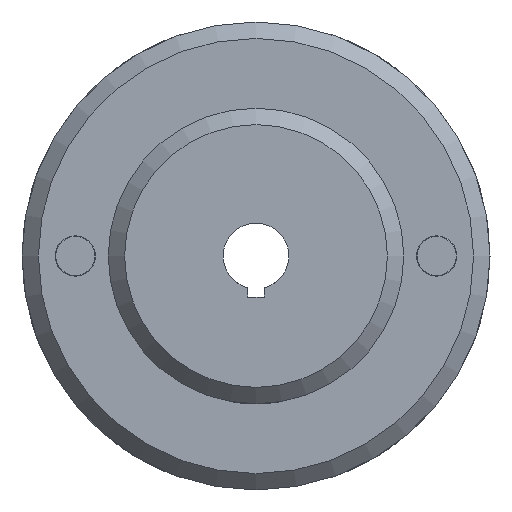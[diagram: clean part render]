
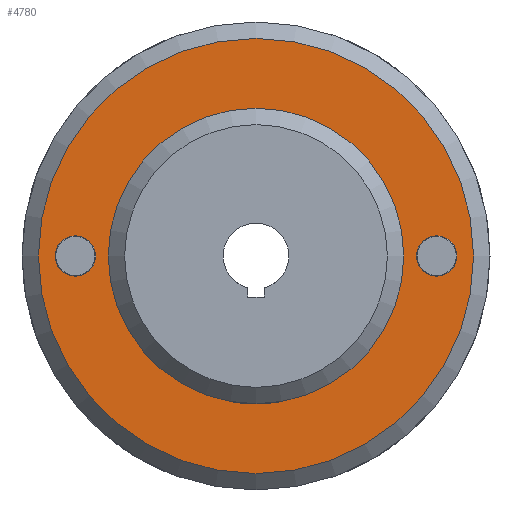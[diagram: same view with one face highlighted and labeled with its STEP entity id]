
A CAD part, left-side view. The second image highlights one B-rep face of the part: STEP entity #4780.
In plain terms, the highlighted planar face has unit normal (-1, 0, 0) as drawn and (0, 1, 0) by its records, which use the part's own axes.
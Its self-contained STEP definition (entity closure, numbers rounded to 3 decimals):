
#953=FACE_BOUND('',#1596,.T.);
#954=FACE_BOUND('',#1597,.T.);
#955=FACE_BOUND('',#1598,.T.);
#1258=FACE_OUTER_BOUND('',#1595,.T.);
#1595=EDGE_LOOP('',(#4370));
#1596=EDGE_LOOP('',(#4371));
#1597=EDGE_LOOP('',(#4372));
#1598=EDGE_LOOP('',(#4373));
#1936=CIRCLE('',#5603,18.);
#1937=CIRCLE('',#5606,26.5);
#1940=CIRCLE('',#5611,2.459);
#1941=CIRCLE('',#5612,2.459);
#2334=VERTEX_POINT('',#10053);
#2338=VERTEX_POINT('',#10100);
#2341=VERTEX_POINT('',#10110);
#2342=VERTEX_POINT('',#10112);
#3015=EDGE_CURVE('',#2334,#2334,#1936,.T.);
#3019=EDGE_CURVE('',#2338,#2338,#1937,.T.);
#3024=EDGE_CURVE('',#2341,#2341,#1940,.T.);
#3025=EDGE_CURVE('',#2342,#2342,#1941,.T.);
#4370=ORIENTED_EDGE('',*,*,#3019,.F.);
#4371=ORIENTED_EDGE('',*,*,#3015,.F.);
#4372=ORIENTED_EDGE('',*,*,#3024,.T.);
#4373=ORIENTED_EDGE('',*,*,#3025,.T.);
#4479=PLANE('',#5610);
#4780=ADVANCED_FACE('',(#1258,#953,#954,#955),#4479,.T.);
#5603=AXIS2_PLACEMENT_3D('',#10055,#7090,#7091);
#5606=AXIS2_PLACEMENT_3D('',#10101,#7096,#7097);
#5610=AXIS2_PLACEMENT_3D('',#10109,#7106,#7107);
#5611=AXIS2_PLACEMENT_3D('',#10111,#7108,#7109);
#5612=AXIS2_PLACEMENT_3D('',#10113,#7110,#7111);
#7090=DIRECTION('center_axis',(0.,1.,0.));
#7091=DIRECTION('ref_axis',(-1.,0.,0.));
#7096=DIRECTION('center_axis',(0.,-1.,0.));
#7097=DIRECTION('ref_axis',(1.,0.,0.));
#7106=DIRECTION('center_axis',(0.,1.,0.));
#7107=DIRECTION('ref_axis',(0.,0.,1.));
#7108=DIRECTION('center_axis',(0.,-1.,0.));
#7109=DIRECTION('ref_axis',(1.,0.,0.));
#7110=DIRECTION('center_axis',(0.,-1.,0.));
#7111=DIRECTION('ref_axis',(1.,0.,0.));
#10053=CARTESIAN_POINT('',(18.,7.,0.));
#10055=CARTESIAN_POINT('Origin',(0.,7.,0.));
#10100=CARTESIAN_POINT('',(-26.5,7.,0.));
#10101=CARTESIAN_POINT('Origin',(0.,7.,0.));
#10109=CARTESIAN_POINT('Origin',(-23.25,7.,0.));
#10110=CARTESIAN_POINT('',(-24.459,7.,0.));
#10111=CARTESIAN_POINT('Origin',(-22.,7.,0.));
#10112=CARTESIAN_POINT('',(19.542,7.,0.));
#10113=CARTESIAN_POINT('Origin',(22.,7.,0.));
